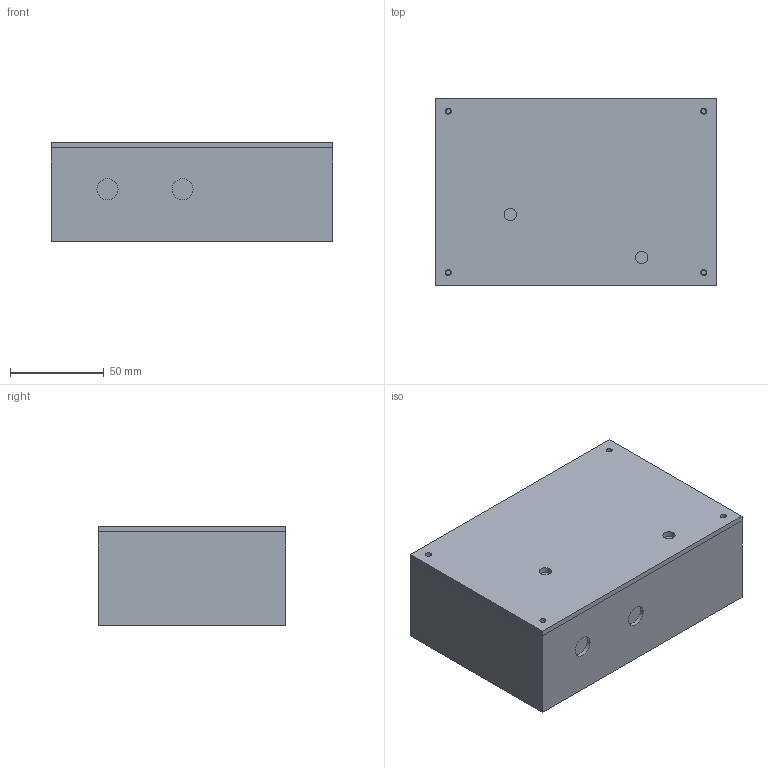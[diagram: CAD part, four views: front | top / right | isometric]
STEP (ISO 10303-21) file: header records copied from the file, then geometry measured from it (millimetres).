
FILE_DESCRIPTION(('Open CASCADE Model'),'2;1');
FILE_NAME('Open CASCADE Shape Model','2026-10-05T13:12:06',('Author'),( 'Open CASCADE'),'Open CASCADE STEP processor 7.8','Open CASCADE 7.8' ,'Unknown');
FILE_SCHEMA(('AUTOMOTIVE_DESIGN { 1 0 10303 214 1 1 1 1 }'));
Length unit declared in the file: millimetre
Products named in the file (13): PDI_12; base_6061; lid_6061; carrier_acetal; PCB_envelope; T1_envelope_max; R1_envelope; R2_envelope; J1_envelope; J2_envelope; J3_envelope; SW1_envelope; SW2_envelope
Assembly tree (12 placements, depth 2):
  PDI_12
    base_6061
    lid_6061
    carrier_acetal
    PCB_envelope
    T1_envelope_max
    R1_envelope
    R2_envelope
    J1_envelope
    J2_envelope
    J3_envelope
    SW1_envelope
    SW2_envelope
Bounding box: 150 x 100 x 53 mm (x, y, z)
Volume: 281079.3 mm3; surface area: 138355 mm2
Topology: 12 solids, 12 shells, 161 faces, 343 edges, 226 vertices
Faces by surface type: plane 100, cylinder 61
Full cylindrical faces by diameter (mm): 0.6 x8, 2.5 x14, 3.2 x17, 6.5 x2, 9 x2, 11.2 x2, 18 x2, 24 x1, 28.702 x1
Entity records: 9339 total; most frequent: CARTESIAN_POINT 1613, DIRECTION 1483, LINE 755, VECTOR 755, ORIENTED_EDGE 686, PCURVE 686, DEFINITIONAL_REPRESENTATION 686, EDGE_CURVE 343
